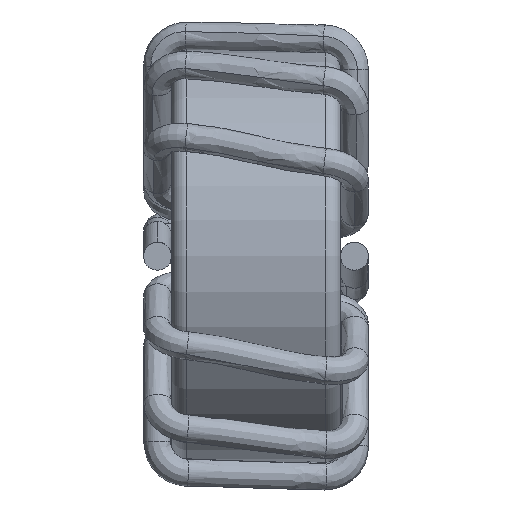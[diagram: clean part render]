
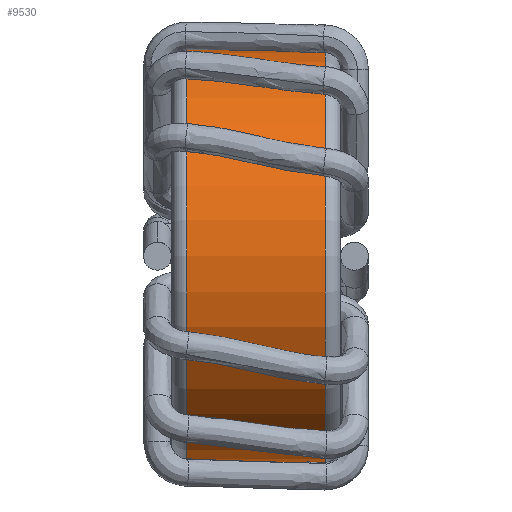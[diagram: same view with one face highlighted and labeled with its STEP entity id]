
A CAD part, left-side view. The second image highlights one B-rep face of the part: STEP entity #9530.
In plain terms, the highlighted cylindrical face has radius 6.73 mm (diameter 13.46 mm), a partial arc.
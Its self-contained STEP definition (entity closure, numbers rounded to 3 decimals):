
#110 = EDGE_CURVE ( 'NONE', #1494, #3405, #9674, .T. ) ;
#277 = EDGE_LOOP ( 'NONE', ( #3483, #18531, #16947, #5958 ) ) ;
#1494 = VERTEX_POINT ( 'NONE', #11103 ) ;
#1550 = CARTESIAN_POINT ( 'NONE',  ( 0.055, 8.182, -7.206 ) ) ;
#2126 = CARTESIAN_POINT ( 'NONE',  ( 0.055, 8.182, -0.476 ) ) ;
#3325 = CARTESIAN_POINT ( 'NONE',  ( 0.055, 3.172, -7.206 ) ) ;
#3405 = VERTEX_POINT ( 'NONE', #3325 ) ;
#3480 = EDGE_CURVE ( 'NONE', #20143, #1494, #5436, .T. ) ;
#3483 = ORIENTED_EDGE ( 'NONE', *, *, #17754, .F. ) ;
#3874 = CARTESIAN_POINT ( 'NONE',  ( 0.055, 8.182, 6.254 ) ) ;
#5436 = CIRCLE ( 'NONE', #17423, 6.73 ) ;
#5958 = ORIENTED_EDGE ( 'NONE', *, *, #6089, .T. ) ;
#6022 = VECTOR ( 'NONE', #12528, 1000. ) ;
#6089 = EDGE_CURVE ( 'NONE', #3405, #11553, #8313, .T. ) ;
#6548 = LINE ( 'NONE', #3874, #6022 ) ;
#6817 = AXIS2_PLACEMENT_3D ( 'NONE', #2126, #10952, #16736 ) ;
#7784 = DIRECTION ( 'NONE',  ( 0., -1., 0. ) ) ;
#8313 = CIRCLE ( 'NONE', #9606, 6.73 ) ;
#9530 = ADVANCED_FACE ( 'NONE', ( #20537 ), #11849, .T. ) ;
#9606 = AXIS2_PLACEMENT_3D ( 'NONE', #17642, #16639, #22182 ) ;
#9674 = LINE ( 'NONE', #1550, #12617 ) ;
#9806 = CARTESIAN_POINT ( 'NONE',  ( 0.055, 7.682, -0.476 ) ) ;
#10952 = DIRECTION ( 'NONE',  ( 0., -1., 0. ) ) ;
#11103 = CARTESIAN_POINT ( 'NONE',  ( 0.055, 7.682, -7.206 ) ) ;
#11553 = VERTEX_POINT ( 'NONE', #21095 ) ;
#11849 = CYLINDRICAL_SURFACE ( 'NONE', #6817, 6.73 ) ;
#12528 = DIRECTION ( 'NONE',  ( 0., -1., 0. ) ) ;
#12617 = VECTOR ( 'NONE', #15289, 1000. ) ;
#15289 = DIRECTION ( 'NONE',  ( 0., -1., 0. ) ) ;
#16639 = DIRECTION ( 'NONE',  ( 0., 1., 0. ) ) ;
#16736 = DIRECTION ( 'NONE',  ( 0., 0., -1. ) ) ;
#16947 = ORIENTED_EDGE ( 'NONE', *, *, #110, .T. ) ;
#17423 = AXIS2_PLACEMENT_3D ( 'NONE', #9806, #7784, #21820 ) ;
#17642 = CARTESIAN_POINT ( 'NONE',  ( 0.055, 3.172, -0.476 ) ) ;
#17754 = EDGE_CURVE ( 'NONE', #20143, #11553, #6548, .T. ) ;
#18531 = ORIENTED_EDGE ( 'NONE', *, *, #3480, .T. ) ;
#20016 = CARTESIAN_POINT ( 'NONE',  ( 0.055, 7.682, 6.254 ) ) ;
#20143 = VERTEX_POINT ( 'NONE', #20016 ) ;
#20537 = FACE_OUTER_BOUND ( 'NONE', #277, .T. ) ;
#21095 = CARTESIAN_POINT ( 'NONE',  ( 0.055, 3.172, 6.254 ) ) ;
#21820 = DIRECTION ( 'NONE',  ( 0., 0., 1. ) ) ;
#22182 = DIRECTION ( 'NONE',  ( 0., 0., 1. ) ) ;
